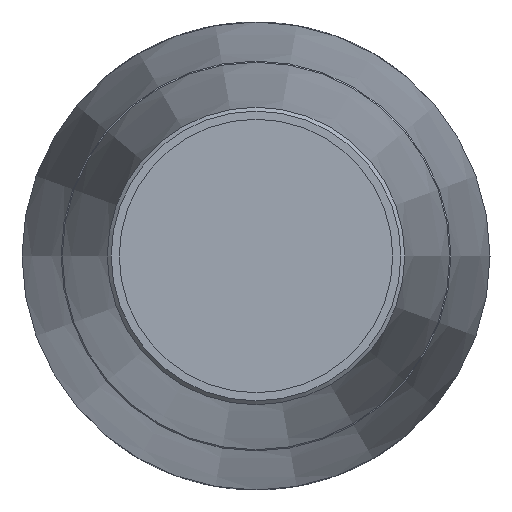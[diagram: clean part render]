
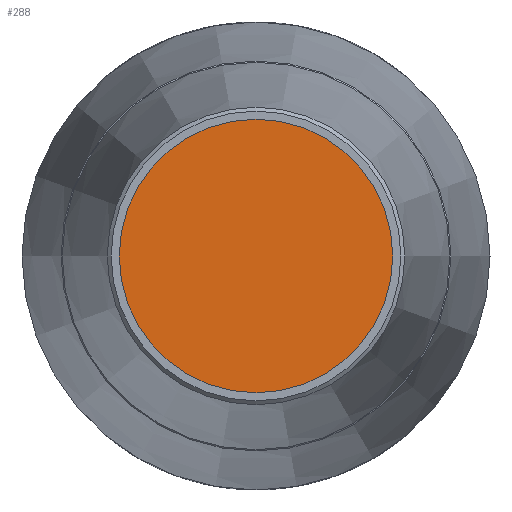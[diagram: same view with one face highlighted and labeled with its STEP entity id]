
A CAD part, left-side view. The second image highlights one B-rep face of the part: STEP entity #288.
In plain terms, the highlighted planar face has unit normal (-1, 0, 0).
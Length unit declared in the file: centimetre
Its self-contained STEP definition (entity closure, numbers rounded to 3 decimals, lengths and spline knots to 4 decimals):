
#42=PLANE('',#323);
#73=FACE_OUTER_BOUND('',#104,.T.);
#104=EDGE_LOOP('',(#210));
#132=CIRCLE('',#322,1.9);
#148=VERTEX_POINT('',#455);
#172=EDGE_CURVE('',#148,#148,#132,.T.);
#210=ORIENTED_EDGE('',*,*,#172,.T.);
#288=ADVANCED_FACE('',(#73),#42,.T.);
#322=AXIS2_PLACEMENT_3D('',#456,#383,#384);
#323=AXIS2_PLACEMENT_3D('',#457,#385,#386);
#383=DIRECTION('center_axis',(-1.,0.,0.));
#384=DIRECTION('ref_axis',(0.,0.,1.));
#385=DIRECTION('center_axis',(-1.,0.,0.));
#386=DIRECTION('ref_axis',(0.,0.,1.));
#455=CARTESIAN_POINT('',(-18.4,-1.9,0.));
#456=CARTESIAN_POINT('Origin',(-18.4,0.,0.));
#457=CARTESIAN_POINT('Origin',(-18.4,0.,0.));
